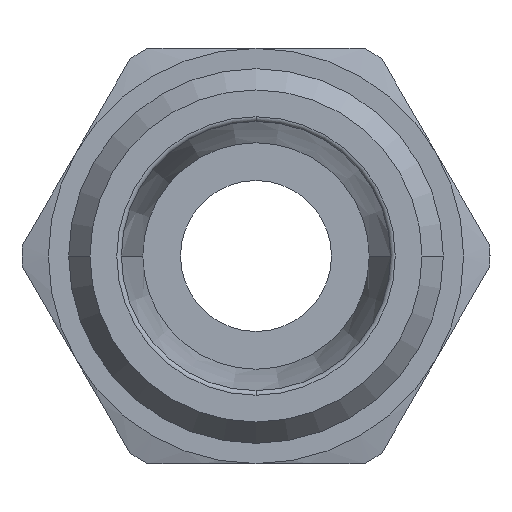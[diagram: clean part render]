
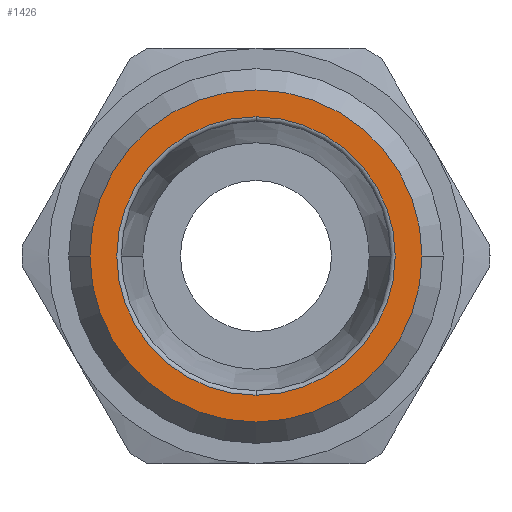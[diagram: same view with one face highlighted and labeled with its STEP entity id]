
A CAD part, left-side view. The second image highlights one B-rep face of the part: STEP entity #1426.
In plain terms, the highlighted planar face has unit normal (-1, 0, 0) as drawn and (0, 0, 1) by its records, which use the part's own axes.
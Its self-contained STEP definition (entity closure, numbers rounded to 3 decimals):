
#901=CARTESIAN_POINT('',(0.,-8.8,17.0));
#902=VERTEX_POINT('',#901);
#909=CARTESIAN_POINT('',(0.,8.8,17.));
#910=VERTEX_POINT('',#909);
#911=CARTESIAN_POINT('',(0.,0.,17.0));
#912=DIRECTION('',(0.0,0.0,-1.0));
#913=DIRECTION('',(0.0,-1.0,0.0));
#914=AXIS2_PLACEMENT_3D('',#911,#912,#913);
#915=CIRCLE('',#914,8.8);
#916=EDGE_CURVE('',#902,#910,#915,.T.);
#974=CARTESIAN_POINT('',(7.377,0.,17.0));
#975=VERTEX_POINT('',#974);
#993=CARTESIAN_POINT('',(-7.377,0.,17.0));
#994=VERTEX_POINT('',#993);
#1002=CARTESIAN_POINT('',(0.,-7.377,17.0));
#1003=VERTEX_POINT('',#1002);
#1004=CARTESIAN_POINT('',(0.,0.,17.0));
#1005=DIRECTION('',(0.0,0.0,1.0));
#1006=DIRECTION('',(0.0,1.0,0.0));
#1007=AXIS2_PLACEMENT_3D('',#1004,#1005,#1006);
#1008=CIRCLE('',#1007,7.377);
#1009=EDGE_CURVE('',#994,#1003,#1008,.T.);
#1011=CARTESIAN_POINT('',(0.,0.,17.0));
#1012=DIRECTION('',(0.0,0.0,1.0));
#1013=DIRECTION('',(0.0,1.0,0.0));
#1014=AXIS2_PLACEMENT_3D('',#1011,#1012,#1013);
#1015=CIRCLE('',#1014,7.377);
#1016=EDGE_CURVE('',#1003,#975,#1015,.T.);
#1387=CARTESIAN_POINT('',(0.,0.,17.0));
#1388=DIRECTION('',(0.0,0.0,1.0));
#1389=DIRECTION('',(0.0,1.0,0.0));
#1390=AXIS2_PLACEMENT_3D('',#1387,#1388,#1389);
#1391=CIRCLE('',#1390,7.377);
#1392=EDGE_CURVE('',#975,#994,#1391,.T.);
#1406=CARTESIAN_POINT('',(0.,-7.988,17.));
#1407=DIRECTION('',(0.0,0.0,1.0));
#1408=DIRECTION('',(-1.0,0.0,0.0));
#1409=AXIS2_PLACEMENT_3D('',#1406,#1407,#1408);
#1410=PLANE('',#1409);
#1411=ORIENTED_EDGE('',*,*,#916,.F.);
#1412=CARTESIAN_POINT('',(0.,0.,17.0));
#1413=DIRECTION('',(0.0,0.0,-1.0));
#1414=DIRECTION('',(0.0,-1.0,0.0));
#1415=AXIS2_PLACEMENT_3D('',#1412,#1413,#1414);
#1416=CIRCLE('',#1415,8.8);
#1417=EDGE_CURVE('',#910,#902,#1416,.T.);
#1418=ORIENTED_EDGE('',*,*,#1417,.F.);
#1419=EDGE_LOOP('',(#1411,#1418));
#1420=FACE_OUTER_BOUND('',#1419,.T.);
#1421=ORIENTED_EDGE('',*,*,#1016,.F.);
#1422=ORIENTED_EDGE('',*,*,#1009,.F.);
#1423=ORIENTED_EDGE('',*,*,#1392,.F.);
#1424=EDGE_LOOP('',(#1421,#1422,#1423));
#1425=FACE_BOUND('',#1424,.T.);
#1426=ADVANCED_FACE('',(#1420,#1425),#1410,.T.);
